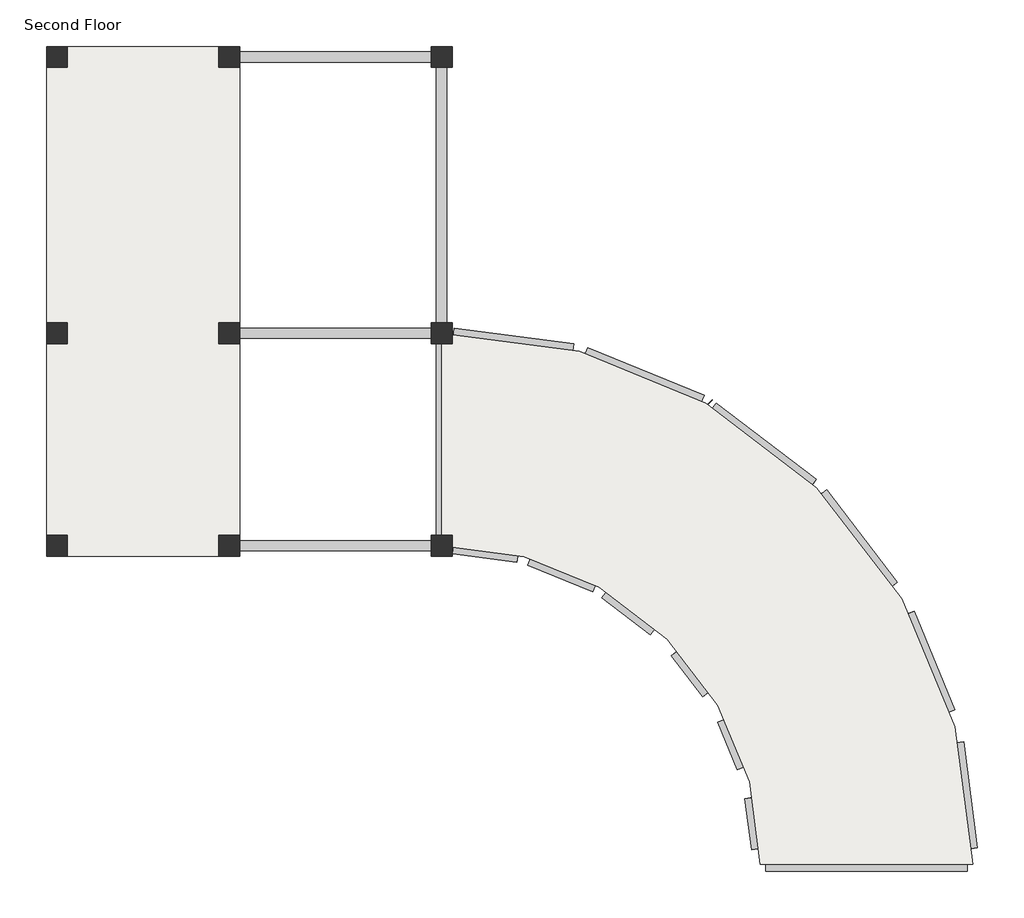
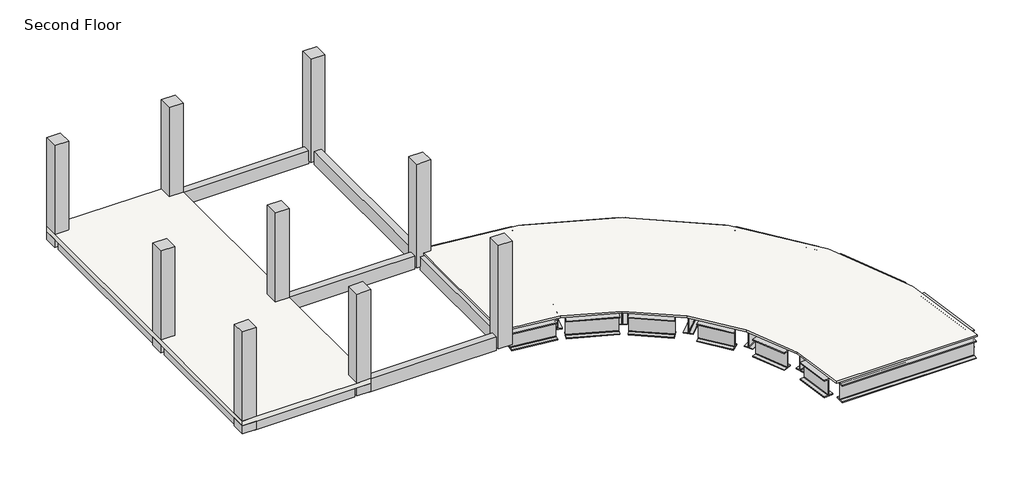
# One storey: 32 beams, 9 columns, 2 slabs.
"""IFC4 building model written with IfcOpenShell, lengths in millimetres."""

from ifc_helpers import new_model, si_unit, frame, origin, place, context, project, spatial, polyline, outline, extrude, faceted_brep, transform, mapped, element, save
from components import w760x350_12c19f72, w760x350_7ec89315, w760x350_d8cf7d22, w760x350_981adb13, w760x350_eb8f40b6, w760x350_05c1157e, w760x350_f3f78417, w760x350_c36f9bc7, w760x350_d152c47d, w760x350_c276092f, w760x350_f967bb8b, w760x350_305620d7, w760x350_b96b6d01, w760x350_5a9d4526, w760x350_66d51d2f

model = new_model("IFC4")

# Units and contexts
model_context = context("Model", 3, world=origin())
ifc_project = project(units=[si_unit("LENGTHUNIT", "METRE", prefix="MILLI")], contexts=[model_context])

# Site, building, storey
site = spatial("IfcSite", under=ifc_project)
building = spatial("IfcBuilding", under=site)
storey = spatial("IfcBuildingStorey", under=building, Name="Second Floor", Elevation=3048.0)

# Beams
placement = place(None, origin())
element("IfcBeam", 1, ObjectType="M_Concrete-Rectangular Beam : 300 x 600mm", at=placement, inside=storey, context=model_context, shape_type="SweptSolid", body=[
    extrude(outline(polyline([(-16304.9035319, 4112.1636035), (-16304.9035319, 4412.1636035), (-10808.9035319, 4412.1636035), (-10808.9035319, 4112.1636035), (-16304.9035319, 4112.1636035)])), frame((0.0, 0.0, 2448.0), z_axis=(0.0, 0.0, 1.0), x_axis=(1.0, 0.0, 0.0)), (0.0, 0.0, 1.0), 600.0),
])
element("IfcBeam", 2, ObjectType="M_Concrete-Rectangular Beam : 300 x 600mm", at=placement, inside=storey, context=model_context, shape_type="SweptSolid", body=[
    extrude(outline(polyline([(-21244.300634, 4112.1636035), (-21244.300634, 4412.1636035), (-16904.9035319, 4412.1636035), (-16904.9035319, 4112.1636035), (-21244.300634, 4112.1636035)])), frame((0.0, 0.0, 2448.0), z_axis=(0.0, 0.0, 1.0), x_axis=(1.0, 0.0, 0.0)), (0.0, 0.0, 1.0), 510.0),
])
element("IfcBeam", 3, ObjectType="M_Concrete-Rectangular Beam : 300 x 600mm", at=placement, inside=storey, context=model_context, shape_type="SweptSolid", body=[
    extrude(outline(polyline([(-16304.9035319, -3812.8363965), (-16304.9035319, -3512.8363965), (-10808.9035319, -3512.8363965), (-10808.9035319, -3812.8363965), (-16304.9035319, -3812.8363965)])), frame((0.0, 0.0, 2448.0), z_axis=(0.0, 0.0, 1.0), x_axis=(1.0, 0.0, 0.0)), (0.0, 0.0, 1.0), 600.0),
])
element("IfcBeam", 4, ObjectType="M_Concrete-Rectangular Beam : 300 x 600mm", at=placement, inside=storey, context=model_context, shape_type="SweptSolid", body=[
    extrude(outline(polyline([(-21244.300634, -3812.8363965), (-21244.300634, -3512.8363965), (-16904.9035319, -3512.8363965), (-16904.9035319, -3812.8363965), (-21244.300634, -3812.8363965)])), frame((0.0, 0.0, 2448.0), z_axis=(0.0, 0.0, 1.0), x_axis=(1.0, 0.0, 0.0)), (0.0, 0.0, 1.0), 510.0),
])
element("IfcBeam", 5, ObjectType="M_Concrete-Rectangular Beam : 300 x 600mm", at=placement, inside=storey, context=model_context, shape_type="SweptSolid", body=[
    extrude(outline(polyline([(-16304.9035319, -9908.8363965), (-16304.9035319, -9608.8363965), (-10808.9035319, -9608.8363965), (-10808.9035319, -9908.8363965), (-16304.9035319, -9908.8363965)])), frame((0.0, 0.0, 2448.0), z_axis=(0.0, 0.0, 1.0), x_axis=(1.0, 0.0, 0.0)), (0.0, 0.0, 1.0), 600.0),
])
element("IfcBeam", 6, ObjectType="M_Concrete-Rectangular Beam : 300 x 600mm", at=placement, inside=storey, context=model_context, shape_type="SweptSolid", body=[
    extrude(outline(polyline([(-21244.300634, -9908.8363965), (-21244.300634, -9608.8363965), (-16904.9035319, -9608.8363965), (-16904.9035319, -9908.8363965), (-21244.300634, -9908.8363965)])), frame((0.0, 0.0, 2448.0), z_axis=(0.0, 0.0, 1.0), x_axis=(1.0, 0.0, 0.0)), (0.0, 0.0, 1.0), 510.0),
])
element("IfcBeam", 7, ObjectType="M_Concrete-Rectangular Beam : 300 x 600mm", at=placement, inside=storey, context=model_context, shape_type="SweptSolid", body=[
    extrude(outline(polyline([(-21394.300634, -3362.8363965), (-21694.300634, -3362.8363965), (-21694.300634, 3962.1636035), (-21394.300634, 3962.1636035), (-21394.300634, -3362.8363965)])), frame((0.0, 0.0, 2448.0), z_axis=(0.0, 0.0, 1.0), x_axis=(1.0, 0.0, 0.0)), (0.0, 0.0, 1.0), 510.0),
])
element("IfcBeam", 8, ObjectType="M_Concrete-Rectangular Beam : 300 x 600mm", at=placement, inside=storey, context=model_context, shape_type="SweptSolid", body=[
    extrude(outline(polyline([(-21394.300634, -9458.8363965), (-21694.300634, -9458.8363965), (-21694.300634, -3962.8363965), (-21394.300634, -3962.8363965), (-21394.300634, -9458.8363965)])), frame((0.0, 0.0, 2448.0), z_axis=(0.0, 0.0, 1.0), x_axis=(1.0, 0.0, 0.0)), (0.0, 0.0, 1.0), 510.0),
])
element("IfcBeam", 9, ObjectType="M_Concrete-Rectangular Beam : 300 x 600mm", at=placement, inside=storey, context=model_context, shape_type="SweptSolid", body=[
    extrude(outline(polyline([(-16454.9035319, -9458.8363965), (-16754.9035319, -9458.8363965), (-16754.9035319, -3962.8363965), (-16454.9035319, -3962.8363965), (-16454.9035319, -9458.8363965)])), frame((0.0, 0.0, 2448.0), z_axis=(0.0, 0.0, 1.0), x_axis=(1.0, 0.0, 0.0)), (0.0, 0.0, 1.0), 510.0),
])
element("IfcBeam", 10, ObjectType="M_Concrete-Rectangular Beam : 300 x 600mm", at=placement, inside=storey, context=model_context, shape_type="SweptSolid", body=[
    extrude(outline(polyline([(-16454.9035319, -3362.8363965), (-16754.9035319, -3362.8363965), (-16754.9035319, 3962.1636035), (-16454.9035319, 3962.1636035), (-16454.9035319, -3362.8363965)])), frame((0.0, 0.0, 2448.0), z_axis=(0.0, 0.0, 1.0), x_axis=(1.0, 0.0, 0.0)), (0.0, 0.0, 1.0), 510.0),
])
element("IfcBeam", 11, ObjectType="M_Concrete-Rectangular Beam : 300 x 600mm", at=placement, inside=storey, context=model_context, shape_type="SweptSolid", body=[
    extrude(outline(polyline([(-10358.9035319, -9458.8363965), (-10658.9035319, -9458.8363965), (-10658.9035319, -3962.8363965), (-10358.9035319, -3962.8363965), (-10358.9035319, -9458.8363965)])), frame((0.0, 0.0, 2448.0), z_axis=(0.0, 0.0, 1.0), x_axis=(1.0, 0.0, 0.0)), (0.0, 0.0, 1.0), 600.0),
])
element("IfcBeam", 12, ObjectType="M_Concrete-Rectangular Beam : 300 x 600mm", at=placement, inside=storey, context=model_context, shape_type="SweptSolid", body=[
    extrude(outline(polyline([(-10358.9035319, -3362.8363965), (-10658.9035319, -3362.8363965), (-10658.9035319, 3962.1636035), (-10358.9035319, 3962.1636035), (-10358.9035319, -3362.8363965)])), frame((0.0, 0.0, 2448.0), z_axis=(0.0, 0.0, 1.0), x_axis=(1.0, 0.0, 0.0)), (0.0, 0.0, 1.0), 600.0),
])
w760x350_shape = w760x350_12c19f72(model_context)
element("IfcBeam", 13, ObjectType="M_W-Wide Flange : W760X350", at=placement, inside=storey, context=model_context, shape_type="MappedRepresentation", body=[
    mapped(w760x350_shape, transform((-5016.7075479, -11695.182511, 2650.5), x_axis=(-0.7953971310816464, 0.6060886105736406, 0.0), y_axis=(-0.6060886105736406, -0.7953971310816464, 0.0), z_axis=(0.0, 0.0, 1.0))),
])
w760x350_2_shape = w760x350_7ec89315(model_context)
element("IfcBeam", 14, ObjectType="M_W-Wide Flange : W760X350", at=placement, inside=storey, context=model_context, shape_type="MappedRepresentation", body=[
    mapped(w760x350_2_shape, transform((-7066.2790773, -10511.8618368, 2650.5), x_axis=(-0.9251619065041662, 0.37957271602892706, 0.0), y_axis=(-0.37957271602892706, -0.9251619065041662, 0.0), z_axis=(0.0, 0.0, 1.0))),
])
w760x350_3_shape = w760x350_d8cf7d22(model_context)
element("IfcBeam", 15, ObjectType="M_W-Wide Flange : W760X350", at=placement, inside=storey, context=model_context, shape_type="MappedRepresentation", body=[
    mapped(w760x350_3_shape, transform((-9325.5828576, -9914.6235187, 2650.5), x_axis=(-0.99144486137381, 0.13052619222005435, 0.0), y_axis=(-0.13052619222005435, -0.99144486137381, 0.0), z_axis=(0.0, 0.0, 1.0))),
])
w760x350_4_shape = w760x350_981adb13(model_context)
element("IfcBeam", 16, ObjectType="M_W-Wide Flange : W760X350", at=placement, inside=storey, context=model_context, shape_type="MappedRepresentation", body=[
    mapped(w760x350_4_shape, transform((-9325.5828576, -9914.6235187, 2650.5), x_axis=(0.9914448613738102, -0.1305261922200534, 0.0), y_axis=(0.1305261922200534, 0.9914448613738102, 0.0), z_axis=(0.0, 0.0, 1.0))),
])
w760x350_5_shape = w760x350_eb8f40b6(model_context)
element("IfcBeam", 17, ObjectType="M_W-Wide Flange : W760X350", at=placement, inside=storey, context=model_context, shape_type="MappedRepresentation", body=[
    mapped(w760x350_5_shape, transform((-1520.6906541, -17719.5157223, 2650.5), x_axis=(-0.1305261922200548, 0.99144486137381, 0.0), y_axis=(-0.99144486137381, -0.1305261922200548, 0.0), z_axis=(0.0, 0.0, 1.0))),
])
element("IfcBeam", 18, ObjectType="M_W-Wide Flange : W760X350", at=placement, inside=storey, context=model_context, shape_type="MappedRepresentation", body=[
    mapped(w760x350_5_shape, transform((-2133.222508, -15433.5157223, 2650.5), x_axis=(-0.3826834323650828, 0.9238795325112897, 0.0), y_axis=(-0.9238795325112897, -0.3826834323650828, 0.0), z_axis=(0.0, 0.0, 1.0))),
])
element("IfcBeam", 19, ObjectType="M_W-Wide Flange : W760X350", at=placement, inside=storey, context=model_context, shape_type="MappedRepresentation", body=[
    mapped(w760x350_5_shape, transform((-3316.5431822, -13383.9441929, 2650.5), x_axis=(-0.6087614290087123, 0.7933533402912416, 0.0), y_axis=(-0.7933533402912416, -0.6087614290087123, 0.0), z_axis=(0.0, 0.0, 1.0))),
])
w760x350_6_shape = w760x350_05c1157e(model_context)
element("IfcBeam", 20, ObjectType="M_W-Wide Flange : W760X350", at=placement, inside=storey, context=model_context, shape_type="MappedRepresentation", body=[
    mapped(w760x350_6_shape, transform((1683.0964681, -18902.8363965, 2650.5), x_axis=(-1.0, 0.0, 0.0), y_axis=(0.0, -1.0, 0.0), z_axis=(0.0, 0.0, 1.0))),
])
element("IfcBeam", 21, ObjectType="M_W-Wide Flange : W760X350", at=placement, inside=storey, context=model_context, shape_type="MappedRepresentation", body=[
    mapped(w760x350_6_shape, transform((49.6781911, -12806.8363965, 2650.5), x_axis=(0.8660254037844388, 0.49999999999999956, 0.0), y_axis=(-0.49999999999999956, 0.8660254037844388, 0.0), z_axis=(0.0, 0.0, 1.0))),
])
element("IfcBeam", 22, ObjectType="M_W-Wide Flange : W760X350", at=placement, inside=storey, context=model_context, shape_type="MappedRepresentation", body=[
    mapped(w760x350_6_shape, transform((1267.6641423, -15747.3145986, 2650.5), x_axis=(0.9659258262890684, 0.2588190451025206, 0.0), y_axis=(-0.2588190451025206, 0.9659258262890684, 0.0), z_axis=(0.0, 0.0, 1.0))),
])
w760x350_7_shape = w760x350_f3f78417(model_context)
element("IfcBeam", 23, ObjectType="M_W-Wide Flange : W760X350", at=placement, inside=storey, context=model_context, shape_type="MappedRepresentation", body=[
    mapped(w760x350_7_shape, transform((3450.5648413, -13120.6352728, 2650.5), x_axis=(0.38268343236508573, -0.9238795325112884, 0.0), y_axis=(0.9238795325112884, 0.38268343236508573, 0.0), z_axis=(0.0, 0.0, 1.0))),
])
element("IfcBeam", 24, ObjectType="M_W-Wide Flange : W760X350", at=placement, inside=storey, context=model_context, shape_type="MappedRepresentation", body=[
    mapped(w760x350_7_shape, transform((4471.4512645, -16930.6352728, 2650.5), x_axis=(0.13052619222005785, -0.9914448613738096, 0.0), y_axis=(0.9914448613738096, 0.13052619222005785, 0.0), z_axis=(0.0, 0.0, 1.0))),
])
w760x350_8_shape = w760x350_c36f9bc7(model_context)
element("IfcBeam", 25, ObjectType="M_W-Wide Flange : W760X350", at=placement, inside=storey, context=model_context, shape_type="MappedRepresentation", body=[
    mapped(w760x350_8_shape, transform((-7353.381734, -7126.2687224, 2650.5), x_axis=(0.2588190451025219, 0.9659258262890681, 0.0), y_axis=(-0.9659258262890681, 0.2588190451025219, 0.0), z_axis=(0.0, 0.0, 1.0))),
])
w760x350_9_shape = w760x350_d152c47d(model_context)
element("IfcBeam", 26, ObjectType="M_W-Wide Flange : W760X350", at=placement, inside=storey, context=model_context, shape_type="MappedRepresentation", body=[
    mapped(w760x350_9_shape, transform((-4464.9452009, -8311.3279993, 2650.5), x_axis=(0.5000000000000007, 0.8660254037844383, 0.0), y_axis=(-0.8660254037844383, 0.5000000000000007, 0.0), z_axis=(0.0, 0.0, 1.0))),
])
w760x350_10_shape = w760x350_c276092f(model_context)
element("IfcBeam", 27, ObjectType="M_W-Wide Flange : W760X350", at=placement, inside=storey, context=model_context, shape_type="MappedRepresentation", body=[
    mapped(w760x350_10_shape, transform((-1887.8576556, -10281.7905203, 2650.5), x_axis=(0.707106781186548, 0.7071067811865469, 0.0), y_axis=(-0.7071067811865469, 0.707106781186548, 0.0), z_axis=(0.0, 0.0, 1.0))),
])
w760x350_11_shape = w760x350_f967bb8b(model_context)
element("IfcBeam", 28, ObjectType="M_W-Wide Flange : W760X350", at=placement, inside=storey, context=model_context, shape_type="MappedRepresentation", body=[
    mapped(w760x350_11_shape, transform((1478.3637176, -9704.6827239, 2650.5), x_axis=(0.6087614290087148, -0.7933533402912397, 0.0), y_axis=(0.7933533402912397, 0.6087614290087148, 0.0), z_axis=(0.0, 0.0, 1.0))),
])
w760x350_12_shape = w760x350_305620d7(model_context)
element("IfcBeam", 29, ObjectType="M_W-Wide Flange : W760X350", at=placement, inside=storey, context=model_context, shape_type="MappedRepresentation", body=[
    mapped(w760x350_12_shape, transform((-8536.7024082, -3922.4816002, 2650.5), x_axis=(0.9914448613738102, -0.1305261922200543, 0.0), y_axis=(0.1305261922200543, 0.9914448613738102, 0.0), z_axis=(0.0, 0.0, 1.0))),
])
w760x350_13_shape = w760x350_b96b6d01(model_context)
element("IfcBeam", 30, ObjectType="M_W-Wide Flange : W760X350", at=placement, inside=storey, context=model_context, shape_type="MappedRepresentation", body=[
    mapped(w760x350_13_shape, transform((-4752.0478576, -4925.7348849, 2650.5), x_axis=(0.9251619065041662, -0.37957271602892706, 0.0), y_axis=(0.37957271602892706, 0.9251619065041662, 0.0), z_axis=(0.0, 0.0, 1.0))),
])
w760x350_14_shape = w760x350_5a9d4526(model_context)
element("IfcBeam", 31, ObjectType="M_W-Wide Flange : W760X350", at=placement, inside=storey, context=model_context, shape_type="MappedRepresentation", body=[
    mapped(w760x350_14_shape, transform((-1332.8922259, -6893.6419593, 2650.5), x_axis=(0.7953971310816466, -0.6060886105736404, 0.0), y_axis=(0.6060886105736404, 0.7953971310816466, 0.0), z_axis=(0.0, 0.0, 1.0))),
])
w760x350_15_shape = w760x350_66d51d2f(model_context)
element("IfcBeam", 32, ObjectType="M_W-Wide Flange : W760X350", at=placement, inside=storey, context=model_context, shape_type="MappedRepresentation", body=[
    mapped(w760x350_15_shape, transform((-2881.8449987, -5711.667776, 2650.5), x_axis=(0.7071067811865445, -0.7071067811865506, 0.0), y_axis=(0.7071067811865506, 0.7071067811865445, 0.0), z_axis=(0.0, 0.0, 1.0))),
])

# Columns
element("IfcColumn", 33, ObjectType="M_Concrete-Rectangular-Column : 600 x 600mm", at=placement, inside=storey, context=model_context, shape_type="Brep", body=[
    faceted_brep([(-21844.300634, -10058.8363965, 2590.0), (-21844.300634, -9458.8363965, 2590.0), (-21244.300634, -9458.8363965, 2590.0), (-21244.300634, -10058.8363965, 2590.0), (-21844.300634, -9458.8363965, 2958.0), (-21844.300634, -10058.8363965, 2958.0), (-21244.300634, -10058.8363965, 2958.0), (-21244.300634, -9908.8363965, 2958.0), (-21244.300634, -9608.8363965, 2958.0), (-21244.300634, -9458.8363965, 2958.0), (-21394.300634, -9458.8363965, 2958.0), (-21694.300634, -9458.8363965, 2958.0)], [[[0, 1, 2, 3]], [[4, 5, 6, 7, 8, 9, 10, 11]], [[1, 0, 5, 4]], [[2, 1, 4, 11, 10, 9]], [[3, 2, 9, 8, 7, 6]], [[0, 3, 6, 5]]]),
    faceted_brep([(-21844.300634, -10058.8363965, 7225.0), (-21844.300634, -9458.8363965, 7225.0), (-21844.300634, -9458.8363965, 3168.0), (-21844.300634, -10058.8363965, 3168.0), (-21244.300634, -9458.8363965, 7225.0), (-21244.300634, -9458.8363965, 3168.0), (-21244.300634, -10058.8363965, 7225.0), (-21244.300634, -10058.8363965, 3168.0)], [[[0, 1, 2, 3]], [[1, 4, 5, 2]], [[4, 6, 7, 5]], [[6, 0, 3, 7]], [[1, 0, 6, 4]], [[3, 2, 5, 7]]]),
])
element("IfcColumn", 34, ObjectType="M_Concrete-Rectangular-Column : 600 x 600mm", at=placement, inside=storey, context=model_context, shape_type="Brep", body=[
    faceted_brep([(-21844.300634, -3962.8363965, 2590.0), (-21844.300634, -3362.8363965, 2590.0), (-21244.300634, -3362.8363965, 2590.0), (-21244.300634, -3962.8363965, 2590.0), (-21844.300634, -3362.8363965, 2958.0), (-21844.300634, -3962.8363965, 2958.0), (-21694.300634, -3962.8363965, 2958.0), (-21394.300634, -3962.8363965, 2958.0), (-21244.300634, -3962.8363965, 2958.0), (-21244.300634, -3812.8363965, 2958.0), (-21244.300634, -3512.8363965, 2958.0), (-21244.300634, -3362.8363965, 2958.0), (-21394.300634, -3362.8363965, 2958.0), (-21694.300634, -3362.8363965, 2958.0)], [[[0, 1, 2, 3]], [[4, 5, 6, 7, 8, 9, 10, 11, 12, 13]], [[1, 0, 5, 4]], [[2, 1, 4, 13, 12, 11]], [[3, 2, 11, 10, 9, 8]], [[0, 3, 8, 7, 6, 5]]]),
    faceted_brep([(-21844.300634, -3962.8363965, 7225.0), (-21844.300634, -3362.8363965, 7225.0), (-21844.300634, -3362.8363965, 3168.0), (-21844.300634, -3962.8363965, 3168.0), (-21244.300634, -3362.8363965, 7225.0), (-21244.300634, -3362.8363965, 3168.0), (-21244.300634, -3962.8363965, 7225.0), (-21244.300634, -3962.8363965, 3168.0)], [[[0, 1, 2, 3]], [[1, 4, 5, 2]], [[4, 6, 7, 5]], [[6, 0, 3, 7]], [[1, 0, 6, 4]], [[3, 2, 5, 7]]]),
])
element("IfcColumn", 35, ObjectType="M_Concrete-Rectangular-Column : 600 x 600mm", at=placement, inside=storey, context=model_context, shape_type="Brep", body=[
    faceted_brep([(-21844.300634, 3962.1636035, 2590.0), (-21844.300634, 4562.1636035, 2590.0), (-21244.300634, 4562.1636035, 2590.0), (-21244.300634, 3962.1636035, 2590.0), (-21844.300634, 4562.1636035, 2958.0), (-21844.300634, 3962.1636035, 2958.0), (-21694.300634, 3962.1636035, 2958.0), (-21394.300634, 3962.1636035, 2958.0), (-21244.300634, 3962.1636035, 2958.0), (-21244.300634, 4112.1636035, 2958.0), (-21244.300634, 4412.1636035, 2958.0), (-21244.300634, 4562.1636035, 2958.0)], [[[0, 1, 2, 3]], [[4, 5, 6, 7, 8, 9, 10, 11]], [[1, 0, 5, 4]], [[2, 1, 4, 11]], [[3, 2, 11, 10, 9, 8]], [[0, 3, 8, 7, 6, 5]]]),
    faceted_brep([(-21844.300634, 3962.1636035, 7225.0), (-21844.300634, 4562.1636035, 7225.0), (-21844.300634, 4562.1636035, 3168.0), (-21844.300634, 3962.1636035, 3168.0), (-21244.300634, 4562.1636035, 7225.0), (-21244.300634, 4562.1636035, 3168.0), (-21244.300634, 3962.1636035, 7225.0), (-21244.300634, 3962.1636035, 3168.0)], [[[0, 1, 2, 3]], [[1, 4, 5, 2]], [[4, 6, 7, 5]], [[6, 0, 3, 7]], [[1, 0, 6, 4]], [[3, 2, 5, 7]]]),
])
element("IfcColumn", 36, ObjectType="M_Concrete-Rectangular-Column : 600 x 600mm", at=placement, inside=storey, context=model_context, shape_type="Brep", body=[
    faceted_brep([(-16904.9035319, -10058.8363965, 2590.0), (-16904.9035319, -9458.8363965, 2590.0), (-16304.9035319, -9458.8363965, 2590.0), (-16304.9035319, -10058.8363965, 2590.0), (-16904.9035319, -9458.8363965, 2958.0), (-16904.9035319, -9608.8363965, 2958.0), (-16904.9035319, -9908.8363965, 2958.0), (-16904.9035319, -10058.8363965, 2958.0), (-16304.9035319, -10058.8363965, 2958.0), (-16304.9035319, -9458.8363965, 2958.0), (-16454.9035319, -9458.8363965, 2958.0), (-16754.9035319, -9458.8363965, 2958.0)], [[[0, 1, 2, 3]], [[4, 5, 6, 7, 8, 9, 10, 11]], [[1, 0, 7, 6, 5, 4]], [[2, 1, 4, 11, 10, 9]], [[3, 2, 9, 8]], [[0, 3, 8, 7]]]),
    faceted_brep([(-16904.9035319, -10058.8363965, 7225.0), (-16904.9035319, -9458.8363965, 7225.0), (-16904.9035319, -9458.8363965, 3168.0), (-16904.9035319, -10058.8363965, 3168.0), (-16304.9035319, -9458.8363965, 7225.0), (-16304.9035319, -9458.8363965, 3168.0), (-16304.9035319, -10058.8363965, 7225.0), (-16304.9035319, -10058.8363965, 3168.0)], [[[0, 1, 2, 3]], [[1, 4, 5, 2]], [[4, 6, 7, 5]], [[6, 0, 3, 7]], [[1, 0, 6, 4]], [[3, 2, 5, 7]]]),
])
element("IfcColumn", 37, ObjectType="M_Concrete-Rectangular-Column : 600 x 600mm", at=placement, inside=storey, context=model_context, shape_type="Brep", body=[
    faceted_brep([(-16904.9035319, -3962.8363965, 2590.0), (-16904.9035319, -3362.8363965, 2590.0), (-16304.9035319, -3362.8363965, 2590.0), (-16304.9035319, -3962.8363965, 2590.0), (-16904.9035319, -3362.8363965, 2958.0), (-16904.9035319, -3512.8363965, 2958.0), (-16904.9035319, -3812.8363965, 2958.0), (-16904.9035319, -3962.8363965, 2958.0), (-16754.9035319, -3962.8363965, 2958.0), (-16454.9035319, -3962.8363965, 2958.0), (-16304.9035319, -3962.8363965, 2958.0), (-16304.9035319, -3362.8363965, 2958.0), (-16454.9035319, -3362.8363965, 2958.0), (-16754.9035319, -3362.8363965, 2958.0)], [[[0, 1, 2, 3]], [[4, 5, 6, 7, 8, 9, 10, 11, 12, 13]], [[1, 0, 7, 6, 5, 4]], [[2, 1, 4, 13, 12, 11]], [[3, 2, 11, 10]], [[0, 3, 10, 9, 8, 7]]]),
    faceted_brep([(-16904.9035319, -3962.8363965, 7225.0), (-16904.9035319, -3362.8363965, 7225.0), (-16904.9035319, -3362.8363965, 3168.0), (-16904.9035319, -3962.8363965, 3168.0), (-16304.9035319, -3362.8363965, 7225.0), (-16304.9035319, -3362.8363965, 3168.0), (-16304.9035319, -3962.8363965, 7225.0), (-16304.9035319, -3962.8363965, 3168.0)], [[[0, 1, 2, 3]], [[1, 4, 5, 2]], [[4, 6, 7, 5]], [[6, 0, 3, 7]], [[1, 0, 6, 4]], [[3, 2, 5, 7]]]),
])
element("IfcColumn", 38, ObjectType="M_Concrete-Rectangular-Column : 600 x 600mm", at=placement, inside=storey, context=model_context, shape_type="Brep", body=[
    faceted_brep([(-16904.9035319, 3962.1636035, 2590.0), (-16904.9035319, 4562.1636035, 2590.0), (-16304.9035319, 4562.1636035, 2590.0), (-16304.9035319, 3962.1636035, 2590.0), (-16904.9035319, 4562.1636035, 2958.0), (-16904.9035319, 4412.1636035, 2958.0), (-16904.9035319, 4112.1636035, 2958.0), (-16904.9035319, 3962.1636035, 2958.0), (-16754.9035319, 3962.1636035, 2958.0), (-16454.9035319, 3962.1636035, 2958.0), (-16304.9035319, 3962.1636035, 2958.0), (-16304.9035319, 4562.1636035, 2958.0)], [[[0, 1, 2, 3]], [[4, 5, 6, 7, 8, 9, 10, 11]], [[1, 0, 7, 6, 5, 4]], [[2, 1, 4, 11]], [[3, 2, 11, 10]], [[0, 3, 10, 9, 8, 7]]]),
    faceted_brep([(-16904.9035319, 3962.1636035, 7225.0), (-16904.9035319, 4562.1636035, 7225.0), (-16904.9035319, 4562.1636035, 3168.0), (-16904.9035319, 3962.1636035, 3168.0), (-16304.9035319, 4562.1636035, 7225.0), (-16304.9035319, 4562.1636035, 3168.0), (-16304.9035319, 3962.1636035, 7225.0), (-16304.9035319, 3962.1636035, 3168.0)], [[[0, 1, 2, 3]], [[1, 4, 5, 2]], [[4, 6, 7, 5]], [[6, 0, 3, 7]], [[1, 0, 6, 4]], [[3, 2, 5, 7]]]),
])
element("IfcColumn", 39, ObjectType="M_Concrete-Rectangular-Column : 600 x 600mm", at=placement, inside=storey, context=model_context, shape_type="Brep", body=[
    faceted_brep([(-10808.9035319, -10058.8363965, 2590.0), (-10808.9035319, -9458.8363965, 2590.0), (-10208.9035319, -9458.8363965, 2590.0), (-10208.9035319, -10058.8363965, 2590.0), (-10808.9035319, -10058.8363965, 7315.0), (-10808.9035319, -9458.8363965, 7315.0), (-10208.9035319, -9458.8363965, 7315.0), (-10208.9035319, -9458.8363965, 3168.0), (-10508.9035319, -9458.8363965, 3168.0), (-10508.9035319, -9458.8363965, 3093.0), (-10208.9035319, -9458.8363965, 3093.0), (-10208.9035319, -9798.3321458, 3093.0), (-10208.9035319, -9798.3321458, 3168.0), (-10208.9035319, -10058.8363965, 7315.0), (-10508.9035319, -9758.8363965, 3093.0), (-10508.9035319, -9758.8363965, 3168.0)], [[[0, 1, 2, 3]], [[1, 0, 4, 5]], [[2, 1, 5, 6, 7, 8, 9, 10]], [[3, 2, 10, 11, 12, 7, 6, 13]], [[0, 3, 13, 4]], [[5, 4, 13, 6]], [[9, 14, 11, 10]], [[12, 15, 8, 7]], [[14, 15, 12, 11]], [[15, 14, 9, 8]]]),
])
element("IfcColumn", 40, ObjectType="M_Concrete-Rectangular-Column : 600 x 600mm", at=placement, inside=storey, context=model_context, shape_type="Brep", body=[
    faceted_brep([(-10808.9035319, -3962.8363965, 2590.0), (-10808.9035319, -3362.8363965, 2590.0), (-10208.9035319, -3362.8363965, 2590.0), (-10208.9035319, -3962.8363965, 2590.0), (-10808.9035319, -3962.8363965, 7315.0), (-10808.9035319, -3362.8363965, 7315.0), (-10208.9035319, -3362.8363965, 7315.0), (-10208.9035319, -3962.8363965, 7315.0), (-10208.9035319, -3962.8363965, 3168.0), (-10208.9035319, -3702.3321458, 3168.0), (-10208.9035319, -3702.3321458, 3093.0), (-10208.9035319, -3962.8363965, 3093.0), (-10508.9035319, -3962.8363965, 3093.0), (-10508.9035319, -3962.8363965, 3168.0), (-10508.9035319, -3662.8363965, 3093.0), (-10508.9035319, -3662.8363965, 3168.0)], [[[0, 1, 2, 3]], [[1, 0, 4, 5]], [[2, 1, 5, 6]], [[3, 2, 6, 7, 8, 9, 10, 11]], [[0, 3, 11, 12, 13, 8, 7, 4]], [[5, 4, 7, 6]], [[14, 12, 11, 10]], [[15, 9, 8, 13]], [[15, 14, 10, 9]], [[14, 15, 13, 12]]]),
])
element("IfcColumn", 41, ObjectType="M_Concrete-Rectangular-Column : 600 x 600mm", at=placement, inside=storey, context=model_context, shape_type="SweptSolid", body=[
    extrude(outline(polyline([(-10808.9035319, 3962.1636035), (-10808.9035319, 4562.1636035), (-10208.9035319, 4562.1636035), (-10208.9035319, 3962.1636035), (-10808.9035319, 3962.1636035)])), frame((0.0, 0.0, 2590.0), z_axis=(0.0, 0.0, 1.0), x_axis=(1.0, 0.0, 0.0)), (0.0, 0.0, 1.0), 4725.0),
])

# Slabs
element("IfcSlab", 42, ObjectType="160mm Concrete With 50mm Metal Deck", at=placement, inside=storey, context=model_context, shape_type="Brep", body=[
    faceted_brep([(-16304.9035319, 4562.1636035, 2958.0), (-16304.9035319, 3962.1636035, 2958.0), (-16304.9035319, -3362.8363965, 2958.0), (-16304.9035319, -3962.8363965, 2958.0), (-16304.9035319, -9458.8363965, 2958.0), (-16304.9035319, -10058.8363965, 2958.0), (-16904.9035319, -10058.8363965, 2958.0), (-21244.300634, -10058.8363965, 2958.0), (-21844.300634, -10058.8363965, 2958.0), (-21844.300634, -9458.8363965, 2958.0), (-21844.300634, -3962.8363965, 2958.0), (-21844.300634, -3362.8363965, 2958.0), (-21844.300634, 3962.1636035, 2958.0), (-21844.300634, 4562.1636035, 2958.0), (-21244.300634, 4562.1636035, 2958.0), (-16904.9035319, 4562.1636035, 2958.0), (-16304.9035319, 4562.1636035, 3168.0), (-16904.9035319, 4562.1636035, 3168.0), (-21244.300634, 4562.1636035, 3168.0), (-21844.300634, 4562.1636035, 3168.0), (-21844.300634, 3962.1636035, 3168.0), (-21844.300634, -3362.8363965, 3168.0), (-21844.300634, -3962.8363965, 3168.0), (-21844.300634, -9458.8363965, 3168.0), (-21844.300634, -10058.8363965, 3168.0), (-21244.300634, -10058.8363965, 3168.0), (-16904.9035319, -10058.8363965, 3168.0), (-16304.9035319, -10058.8363965, 3168.0), (-16304.9035319, -9458.8363965, 3168.0), (-16304.9035319, -3962.8363965, 3168.0), (-16304.9035319, -3362.8363965, 3168.0), (-16304.9035319, 3962.1636035, 3168.0)], [[[0, 1, 2, 3, 4, 5, 6, 7, 8, 9, 10, 11, 12, 13, 14, 15]], [[16, 17, 18, 19, 20, 21, 22, 23, 24, 25, 26, 27, 28, 29, 30, 31]], [[5, 4, 3, 2, 1, 0, 16, 31, 30, 29, 28, 27]], [[8, 7, 6, 5, 27, 26, 25, 24]], [[13, 12, 11, 10, 9, 8, 24, 23, 22, 21, 20, 19]], [[0, 15, 14, 13, 19, 18, 17, 16]]]),
])
element("IfcSlab", 43, ObjectType="75mm Metal Roof Deck", at=placement, inside=storey, context=model_context, shape_type="Brep", body=[
    faceted_brep([(-10508.9035319, -3662.8363965, 3093.0), (-10208.9035319, -3702.3321458, 3093.0), (-6564.5012845, -4182.1268039, 3093.0), (-2939.5944307, -5669.3429659, 3093.0), (242.5168812, -8094.0957697, 3093.0), (2689.3236218, -11282.8363965, 3093.0), (4211.8060608, -14958.4341491, 3093.0), (4731.0964681, -18902.8363965, 3093.0), (-1364.9035319, -18902.8363965, 3093.0), (-1676.4777763, -16536.1950481, 3093.0), (-2589.9672396, -14330.8363965, 3093.0), (-4043.1191247, -12437.0519893, 3093.0), (-5990.2959711, -10953.3130327, 3093.0), (-8142.2621834, -10070.4106409, 3093.0), (-10208.9035319, -9798.3321458, 3093.0), (-10508.9035319, -9758.8363965, 3093.0), (-10508.9035319, -9458.8363965, 3093.0), (-10508.9035319, -3962.8363965, 3093.0), (-10508.9035319, -3662.8363965, 3168.0), (-10508.9035319, -3962.8363965, 3168.0), (-10508.9035319, -9458.8363965, 3168.0), (-10508.9035319, -9758.8363965, 3168.0), (-10208.9035319, -9798.3321458, 3168.0), (-8142.2621834, -10070.4106409, 3168.0), (-5990.2959711, -10953.3130327, 3168.0), (-4043.1191247, -12437.0519893, 3168.0), (-2589.9672396, -14330.8363965, 3168.0), (-1676.4777763, -16536.1950481, 3168.0), (-1364.9035319, -18902.8363965, 3168.0), (4731.0964681, -18902.8363965, 3168.0), (4211.8060608, -14958.4341491, 3168.0), (2689.3236218, -11282.8363965, 3168.0), (242.5168812, -8094.0957697, 3168.0), (-2939.5944307, -5669.3429659, 3168.0), (-6564.5012845, -4182.1268039, 3168.0), (-10208.9035319, -3702.3321458, 3168.0)], [[[0, 1, 2, 3, 4, 5, 6, 7, 8, 9, 10, 11, 12, 13, 14, 15, 16, 17]], [[18, 19, 20, 21, 22, 23, 24, 25, 26, 27, 28, 29, 30, 31, 32, 33, 34, 35]], [[2, 1, 0, 18, 35, 34]], [[3, 2, 34, 33]], [[4, 3, 33, 32]], [[5, 4, 32, 31]], [[6, 5, 31, 30]], [[7, 6, 30, 29]], [[8, 7, 29, 28]], [[9, 8, 28, 27]], [[10, 9, 27, 26]], [[11, 10, 26, 25]], [[12, 11, 25, 24]], [[13, 12, 24, 23]], [[15, 14, 13, 23, 22, 21]], [[0, 17, 16, 15, 21, 20, 19, 18]]]),
])

save(model, "model.ifc")
